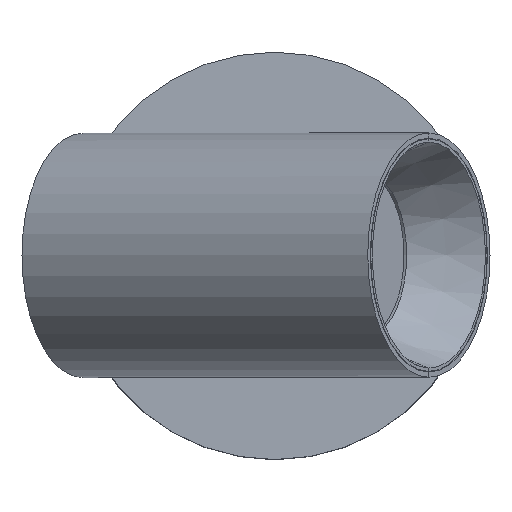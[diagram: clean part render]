
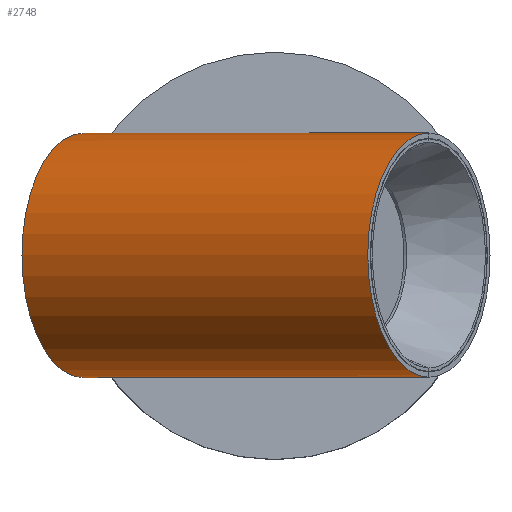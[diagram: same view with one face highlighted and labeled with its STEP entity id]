
A CAD part, top view. The second image highlights one B-rep face of the part: STEP entity #2748.
In plain terms, the highlighted cylindrical face has radius 30 mm (diameter 60 mm), a partial arc.
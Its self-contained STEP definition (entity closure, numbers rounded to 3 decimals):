
#116=CIRCLE('',#2945,30.);
#127=CIRCLE('',#2966,30.);
#348=FACE_OUTER_BOUND('',#513,.T.);
#513=EDGE_LOOP('',(#2042,#2043,#2044,#2045));
#727=LINE('',#4582,#975);
#728=LINE('',#4583,#976);
#975=VECTOR('',#3422,304.8);
#976=VECTOR('',#3423,304.8);
#1217=VERTEX_POINT('',#4531);
#1219=VERTEX_POINT('',#4535);
#1228=VERTEX_POINT('',#4574);
#1229=VERTEX_POINT('',#4576);
#1506=EDGE_CURVE('',#1217,#1219,#116,.T.);
#1526=EDGE_CURVE('',#1229,#1228,#127,.T.);
#1529=EDGE_CURVE('',#1217,#1228,#727,.T.);
#1530=EDGE_CURVE('',#1229,#1219,#728,.T.);
#2042=ORIENTED_EDGE('',*,*,#1529,.F.);
#2043=ORIENTED_EDGE('',*,*,#1506,.T.);
#2044=ORIENTED_EDGE('',*,*,#1530,.F.);
#2045=ORIENTED_EDGE('',*,*,#1526,.T.);
#2643=CYLINDRICAL_SURFACE('',#2969,30.);
#2748=ADVANCED_FACE('',(#348),#2643,.T.);
#2945=AXIS2_PLACEMENT_3D('',#4537,#3362,#3363);
#2966=AXIS2_PLACEMENT_3D('',#4577,#3413,#3414);
#2969=AXIS2_PLACEMENT_3D('',#4581,#3420,#3421);
#3362=DIRECTION('center_axis',(0.,-0.866,
0.5));
#3363=DIRECTION('ref_axis',(1.,0.,0.));
#3413=DIRECTION('center_axis',(0.,0.866,-0.5));
#3414=DIRECTION('ref_axis',(1.,0.,0.));
#3420=DIRECTION('center_axis',(0.,0.866,-0.5));
#3421=DIRECTION('ref_axis',(1.,0.,0.));
#3422=DIRECTION('',(0.,-0.866,0.5));
#3423=DIRECTION('',(0.,0.866,-0.5));
#4531=CARTESIAN_POINT('',(30.03,47.015,65.136));
#4535=CARTESIAN_POINT('',(-29.97,47.015,65.136));
#4537=CARTESIAN_POINT('Origin',(0.03,47.015,65.136));
#4574=CARTESIAN_POINT('',(30.03,-37.856,114.136));
#4576=CARTESIAN_POINT('',(-29.97,-37.856,114.136));
#4577=CARTESIAN_POINT('Origin',(0.03,-37.856,114.136));
#4581=CARTESIAN_POINT('Origin',(0.03,-1456.658,933.282));
#4582=CARTESIAN_POINT('',(30.03,47.015,65.136));
#4583=CARTESIAN_POINT('',(-29.97,-37.856,114.136));
